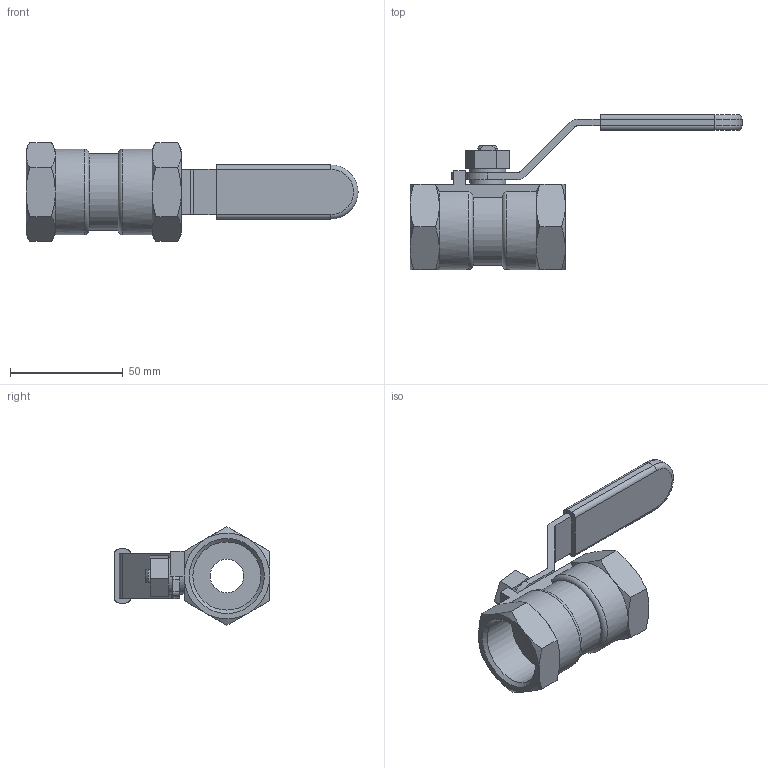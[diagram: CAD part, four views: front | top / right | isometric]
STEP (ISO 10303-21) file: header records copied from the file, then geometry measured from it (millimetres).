
FILE_DESCRIPTION(/* description */ ('Eriks item no: 12427437'),/* implementation_level */ '2;1');
FILE_NAME(/* name */ '7744-DN25-RB-1000PSI-BSP.stp',/* time_stamp */ '2024-02-16T09:50:59+01:00',/* author */ ('roger.thijssen'),/* organization */ (''),/* preprocessor_version */ 'ST-DEVELOPER v19.2',/* originating_system */ 'Autodesk Inventor 2024',/* authorisation */ '');
FILE_SCHEMA (('AUTOMOTIVE_DESIGN { 1 0 10303 214 3 1 1 }'));
Length unit declared in the file: millimetre
Products named in the file (1): Ball valve, 7744-DN25-RB-1000PSI-BSP
Bounding box: 147.5 x 69 x 43.88 mm (x, y, z)
Volume: 66041.2 mm3; surface area: 23431.8 mm2
Topology: 1 solids, 1 shells, 289 faces, 741 edges, 482 vertices
Faces by surface type: plane 206, cylinder 49, cone 28, torus 4, bspline 2
Full cylindrical faces by diameter (mm): 15 x1, 16 x2, 30.291 x2
Entity records: 9021 total; most frequent: CARTESIAN_POINT 1683, ORIENTED_EDGE 1482, DIRECTION 1383, EDGE_CURVE 741, LINE 555, VECTOR 555, VERTEX_POINT 482, AXIS2_PLACEMENT_3D 414
